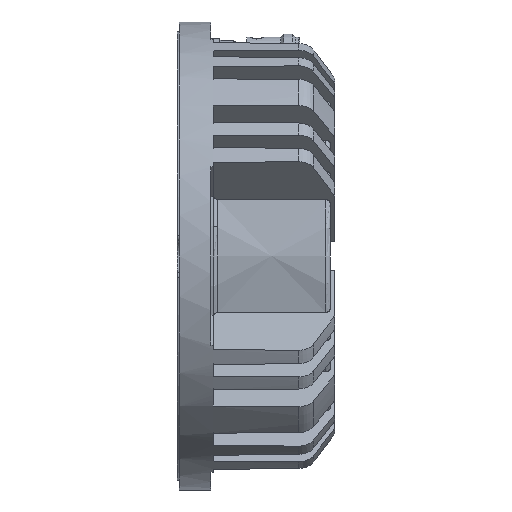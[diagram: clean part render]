
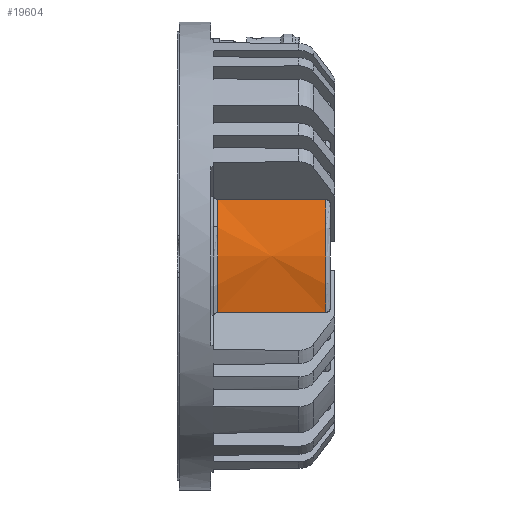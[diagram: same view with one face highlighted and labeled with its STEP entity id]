
A CAD part, left-side view. The second image highlights one B-rep face of the part: STEP entity #19604.
In plain terms, the highlighted conical face has half-angle 1 degrees and reference radius 41 mm.
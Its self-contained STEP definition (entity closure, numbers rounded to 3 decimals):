
#285 = DIRECTION ( 'NONE',  ( 0., 1., 0. ) ) ;
#1118 = CONICAL_SURFACE ( 'NONE', #16801, 41., 0.017 ) ;
#1745 = CARTESIAN_POINT ( 'NONE',  ( -39.471, 25.017, -12.611 ) ) ;
#2688 = ORIENTED_EDGE ( 'NONE', *, *, #9294, .T. ) ;
#3867 = EDGE_CURVE ( 'NONE', #15450, #19636, #20942, .T. ) ;
#4736 = B_SPLINE_CURVE_WITH_KNOTS ( 'NONE', 3,
 ( #9037, #24056, #24327, #4794 ),
 .UNSPECIFIED., .F., .F.,
 ( 4, 4 ),
 ( 0., 0.024 ),
 .UNSPECIFIED. ) ;
#4794 = CARTESIAN_POINT ( 'NONE',  ( -39.065, 0.983, 12.502 ) ) ;
#5644 = DIRECTION ( 'NONE',  ( 0., 0., 1. ) ) ;
#5875 = CARTESIAN_POINT ( 'NONE',  ( -39.471, 25.017, 12.611 ) ) ;
#5897 = DIRECTION ( 'NONE',  ( 0., 1., 0. ) ) ;
#6297 = CARTESIAN_POINT ( 'NONE',  ( 0., 0.983, 0. ) ) ;
#6749 = CIRCLE ( 'NONE', #24701, 41.437 ) ;
#7879 = CARTESIAN_POINT ( 'NONE',  ( 0., 0., 0. ) ) ;
#8018 = FACE_OUTER_BOUND ( 'NONE', #27631, .T. ) ;
#9037 = CARTESIAN_POINT ( 'NONE',  ( -39.471, 25.017, 12.611 ) ) ;
#9294 = EDGE_CURVE ( 'NONE', #25396, #15450, #6749, .T. ) ;
#9969 = CIRCLE ( 'NONE', #27512, 41.017 ) ;
#10298 = CARTESIAN_POINT ( 'NONE',  ( -39.336, 17.006, -12.575 ) ) ;
#10797 = ORIENTED_EDGE ( 'NONE', *, *, #19490, .F. ) ;
#14332 = CARTESIAN_POINT ( 'NONE',  ( -39.201, 8.994, -12.538 ) ) ;
#14838 = DIRECTION ( 'NONE',  ( 0., 0., -1. ) ) ;
#15450 = VERTEX_POINT ( 'NONE', #24539 ) ;
#16668 = CARTESIAN_POINT ( 'NONE',  ( 0., 25.017, 0. ) ) ;
#16801 = AXIS2_PLACEMENT_3D ( 'NONE', #7879, #5897, #5644 ) ;
#18834 = CARTESIAN_POINT ( 'NONE',  ( -39.065, 0.983, 12.502 ) ) ;
#18880 = CARTESIAN_POINT ( 'NONE',  ( -39.065, 0.983, -12.502 ) ) ;
#19078 = DIRECTION ( 'NONE',  ( 0., -1., 0. ) ) ;
#19490 = EDGE_CURVE ( 'NONE', #25396, #27119, #4736, .T. ) ;
#19604 = ADVANCED_FACE ( 'NONE', ( #8018 ), #1118, .T. ) ;
#19636 = VERTEX_POINT ( 'NONE', #24731 ) ;
#20137 = ORIENTED_EDGE ( 'NONE', *, *, #22894, .T. ) ;
#20942 = B_SPLINE_CURVE_WITH_KNOTS ( 'NONE', 3,
 ( #1745, #10298, #14332, #18880 ),
 .UNSPECIFIED., .F., .F.,
 ( 4, 4 ),
 ( 0., 0.024 ),
 .UNSPECIFIED. ) ;
#22894 = EDGE_CURVE ( 'NONE', #19636, #27119, #9969, .T. ) ;
#23146 = DIRECTION ( 'NONE',  ( 0., 0., 1. ) ) ;
#24056 = CARTESIAN_POINT ( 'NONE',  ( -39.336, 17.006, 12.575 ) ) ;
#24327 = CARTESIAN_POINT ( 'NONE',  ( -39.201, 8.994, 12.538 ) ) ;
#24539 = CARTESIAN_POINT ( 'NONE',  ( -39.471, 25.017, -12.611 ) ) ;
#24701 = AXIS2_PLACEMENT_3D ( 'NONE', #16668, #19078, #23146 ) ;
#24724 = ORIENTED_EDGE ( 'NONE', *, *, #3867, .T. ) ;
#24731 = CARTESIAN_POINT ( 'NONE',  ( -39.065, 0.983, -12.502 ) ) ;
#25396 = VERTEX_POINT ( 'NONE', #5875 ) ;
#27119 = VERTEX_POINT ( 'NONE', #18834 ) ;
#27512 = AXIS2_PLACEMENT_3D ( 'NONE', #6297, #285, #14838 ) ;
#27631 = EDGE_LOOP ( 'NONE', ( #2688, #24724, #20137, #10797 ) ) ;
